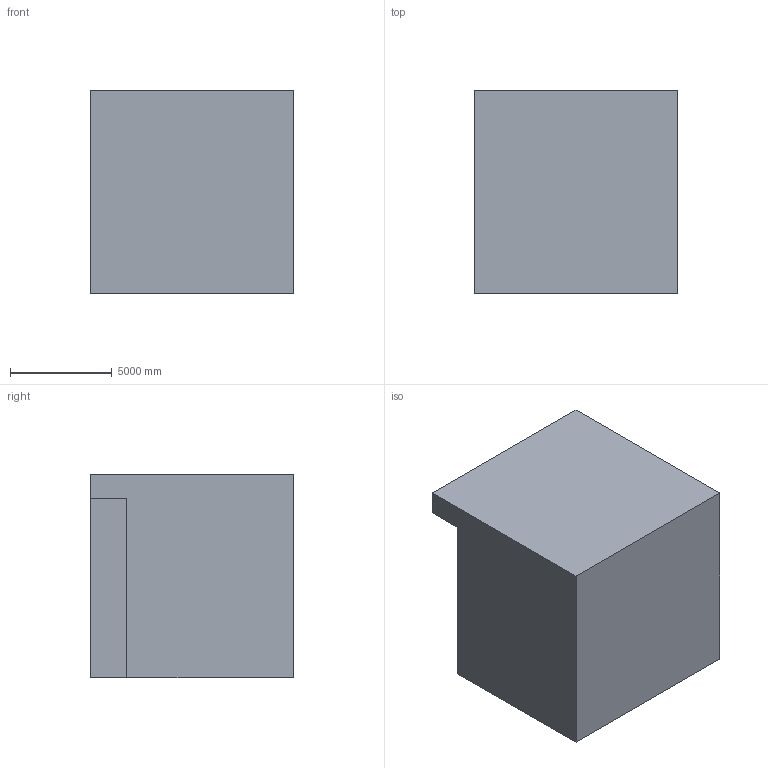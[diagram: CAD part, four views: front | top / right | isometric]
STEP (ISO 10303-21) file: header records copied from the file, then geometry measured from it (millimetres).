
FILE_DESCRIPTION (( 'STEP AP203' ), '1' );
FILE_NAME ('35.STEP', '2022-08-31T11:14:10', ( 'user' ), ( '' ), 'SwSTEP 2.0', 'SolidWorks 2021', '' );
FILE_SCHEMA (( 'CONFIG_CONTROL_DESIGN' ));
Length unit declared in the file: centimetre
Products named in the file (1): 35
Bounding box: 10000 x 10000 x 10000 mm (x, y, z)
Volume: 925547510130.3 mm3; surface area: 637952687.7 mm2
Topology: 1 solids, 1 shells, 12 faces, 27 edges, 18 vertices
Faces by surface type: plane 10, cylinder 2
Entity records: 412 total; most frequent: CARTESIAN_POINT 58, DIRECTION 57, ORIENTED_EDGE 54, EDGE_CURVE 27, LINE 23, VECTOR 23, VERTEX_POINT 18, AXIS2_PLACEMENT_3D 17
